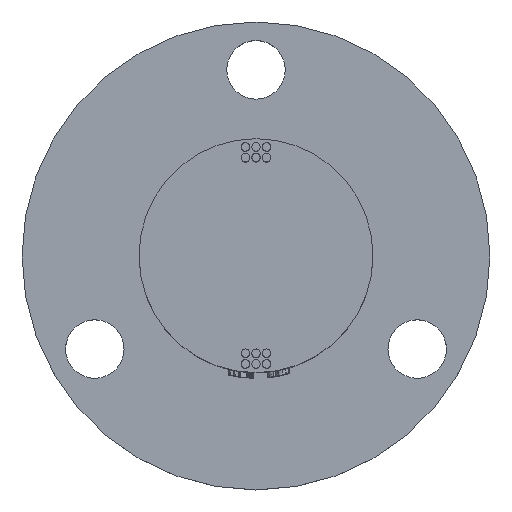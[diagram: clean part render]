
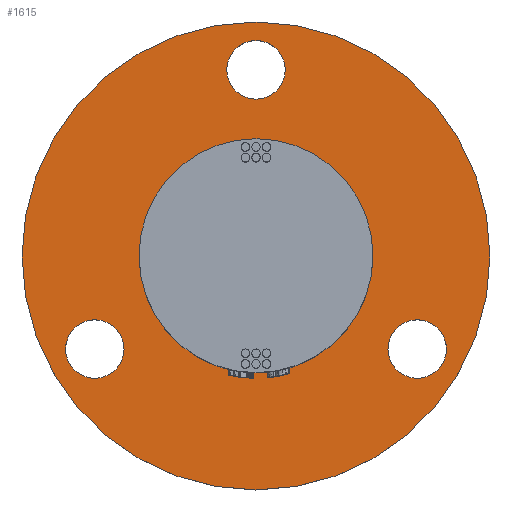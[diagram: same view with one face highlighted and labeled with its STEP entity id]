
A CAD part, top view. The second image highlights one B-rep face of the part: STEP entity #1615.
In plain terms, the highlighted planar face has unit normal (0, 0, 1).
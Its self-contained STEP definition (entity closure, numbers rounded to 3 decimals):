
#138=FACE_BOUND('',#2973,.T.);
#139=FACE_BOUND('',#2974,.T.);
#140=FACE_BOUND('',#2975,.T.);
#141=FACE_BOUND('',#2976,.T.);
#142=FACE_BOUND('',#2977,.T.);
#320=CIRCLE('',#10872,2.75);
#321=CIRCLE('',#10873,2.75);
#322=CIRCLE('',#10874,2.75);
#323=CIRCLE('',#10875,11.);
#324=CIRCLE('',#10876,22.);
#1615=ADVANCED_FACE('',(#138,#139,#140,#141,#142),#1951,.T.);
#1951=PLANE('',#10877);
#2973=EDGE_LOOP('',(#4989));
#2974=EDGE_LOOP('',(#4990));
#2975=EDGE_LOOP('',(#4991));
#2976=EDGE_LOOP('',(#4992));
#2977=EDGE_LOOP('',(#4993));
#4989=ORIENTED_EDGE('',*,*,#8686,.F.);
#4990=ORIENTED_EDGE('',*,*,#8687,.F.);
#4991=ORIENTED_EDGE('',*,*,#8688,.F.);
#4992=ORIENTED_EDGE('',*,*,#8689,.T.);
#4993=ORIENTED_EDGE('',*,*,#8690,.F.);
#7228=VERTEX_POINT('',#21364);
#7229=VERTEX_POINT('',#21366);
#7230=VERTEX_POINT('',#21368);
#7231=VERTEX_POINT('',#21370);
#7232=VERTEX_POINT('',#21372);
#8686=EDGE_CURVE('',#7228,#7228,#320,.T.);
#8687=EDGE_CURVE('',#7229,#7229,#321,.T.);
#8688=EDGE_CURVE('',#7230,#7230,#322,.T.);
#8689=EDGE_CURVE('',#7231,#7231,#323,.T.);
#8690=EDGE_CURVE('',#7232,#7232,#324,.T.);
#10872=AXIS2_PLACEMENT_3D('',#21363,#12001,#12002);
#10873=AXIS2_PLACEMENT_3D('',#21365,#12003,#12004);
#10874=AXIS2_PLACEMENT_3D('',#21367,#12005,#12006);
#10875=AXIS2_PLACEMENT_3D('',#21369,#12007,#12008);
#10876=AXIS2_PLACEMENT_3D('',#21371,#12009,#12010);
#10877=AXIS2_PLACEMENT_3D('',#21373,#12011,#12012);
#12001=DIRECTION('',(0.,0.,1.));
#12002=DIRECTION('',(1.,0.,0.));
#12003=DIRECTION('',(0.,0.,1.));
#12004=DIRECTION('',(1.,0.,0.));
#12005=DIRECTION('',(0.,0.,1.));
#12006=DIRECTION('',(1.,0.,0.));
#12007=DIRECTION('',(0.,0.,-1.));
#12008=DIRECTION('',(1.,0.,0.));
#12009=DIRECTION('',(0.,0.,-1.));
#12010=DIRECTION('',(1.,0.,0.));
#12011=DIRECTION('',(0.,0.,1.));
#12012=DIRECTION('',(1.,0.,0.));
#21363=CARTESIAN_POINT('',(0.,17.5,2.5));
#21364=CARTESIAN_POINT('',(2.75,17.5,2.5));
#21365=CARTESIAN_POINT('',(-15.155,-8.75,2.5));
#21366=CARTESIAN_POINT('',(-12.405,-8.75,2.5));
#21367=CARTESIAN_POINT('',(15.155,-8.75,2.5));
#21368=CARTESIAN_POINT('',(17.905,-8.75,2.5));
#21369=CARTESIAN_POINT('',(0.,0.,2.5));
#21370=CARTESIAN_POINT('',(11.,0.,2.5));
#21371=CARTESIAN_POINT('',(0.,0.,2.5));
#21372=CARTESIAN_POINT('',(22.,0.,2.5));
#21373=CARTESIAN_POINT('',(0.,0.,2.5));
